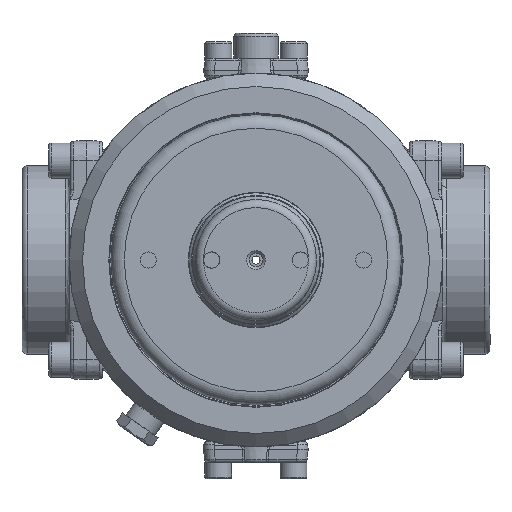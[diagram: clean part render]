
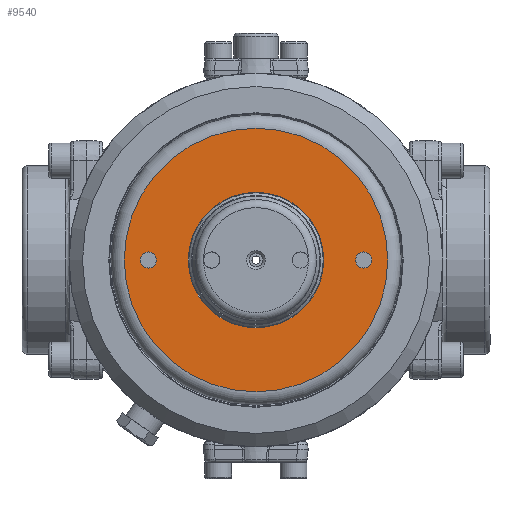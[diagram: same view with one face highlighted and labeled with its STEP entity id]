
A CAD part, front view. The second image highlights one B-rep face of the part: STEP entity #9540.
In plain terms, the highlighted planar face has unit normal (0, -1, 0).
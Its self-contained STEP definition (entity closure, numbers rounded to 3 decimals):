
#745=PLANE('',#11448);
#856=FACE_BOUND('',#2217,.T.);
#857=FACE_BOUND('',#2218,.T.);
#858=FACE_BOUND('',#2219,.T.);
#1575=FACE_OUTER_BOUND('',#2216,.T.);
#2216=EDGE_LOOP('',(#8469));
#2217=EDGE_LOOP('',(#8470));
#2218=EDGE_LOOP('',(#8471));
#2219=EDGE_LOOP('',(#8472));
#3726=CIRCLE('',#11439,3.);
#3727=CIRCLE('',#11441,3.);
#3730=CIRCLE('',#11447,25.188);
#3731=CIRCLE('',#11449,49.);
#4602=VERTEX_POINT('',#21044);
#4603=VERTEX_POINT('',#21048);
#4606=VERTEX_POINT('',#21060);
#4607=VERTEX_POINT('',#21064);
#5902=EDGE_CURVE('',#4602,#4602,#3726,.T.);
#5904=EDGE_CURVE('',#4603,#4603,#3727,.T.);
#5910=EDGE_CURVE('',#4606,#4606,#3730,.T.);
#5912=EDGE_CURVE('',#4607,#4607,#3731,.T.);
#8469=ORIENTED_EDGE('',*,*,#5912,.T.);
#8470=ORIENTED_EDGE('',*,*,#5902,.T.);
#8471=ORIENTED_EDGE('',*,*,#5904,.T.);
#8472=ORIENTED_EDGE('',*,*,#5910,.F.);
#9540=ADVANCED_FACE('',(#1575,#856,#857,#858),#745,.T.);
#11439=AXIS2_PLACEMENT_3D('',#21045,#13942,#13943);
#11441=AXIS2_PLACEMENT_3D('',#21049,#13947,#13948);
#11447=AXIS2_PLACEMENT_3D('',#21061,#13962,#13963);
#11448=AXIS2_PLACEMENT_3D('',#21063,#13965,#13966);
#11449=AXIS2_PLACEMENT_3D('',#21065,#13967,#13968);
#13942=DIRECTION('center_axis',(0.,1.,0.));
#13943=DIRECTION('ref_axis',(1.,0.,0.));
#13947=DIRECTION('center_axis',(0.,1.,0.));
#13948=DIRECTION('ref_axis',(1.,0.,0.));
#13962=DIRECTION('center_axis',(0.,-1.,0.));
#13963=DIRECTION('ref_axis',(1.,0.,0.));
#13965=DIRECTION('center_axis',(0.,-1.,0.));
#13966=DIRECTION('ref_axis',(0.,0.,
-1.));
#13967=DIRECTION('center_axis',(0.,-1.,0.));
#13968=DIRECTION('ref_axis',(1.,0.,0.));
#21044=CARTESIAN_POINT('',(-43.,0.,0.));
#21045=CARTESIAN_POINT('Origin',(-40.,0.,0.));
#21048=CARTESIAN_POINT('',(37.,0.,0.));
#21049=CARTESIAN_POINT('Origin',(40.,0.,0.));
#21060=CARTESIAN_POINT('',(-25.188,0.,0.));
#21061=CARTESIAN_POINT('Origin',(0.,0.,
0.));
#21063=CARTESIAN_POINT('Origin',(22.5,0.,0.));
#21064=CARTESIAN_POINT('',(0.,0.,
49.));
#21065=CARTESIAN_POINT('Origin',(0.,0.,
0.));
